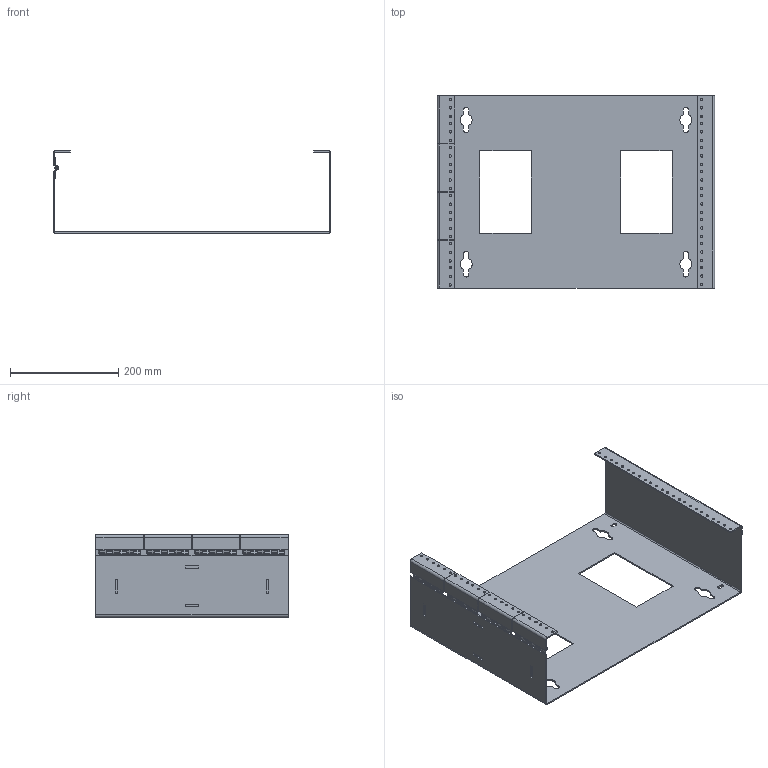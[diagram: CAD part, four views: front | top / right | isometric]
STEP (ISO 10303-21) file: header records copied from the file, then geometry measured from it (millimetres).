
FILE_DESCRIPTION (( 'STEP AP203' ), '1' );
FILE_NAME ('11005.STEP', '2013-07-10T10:37:26', ( '' ), ( '' ), 'SwSTEP 2.0', 'SolidWorks 2010', '' );
FILE_SCHEMA (( 'CONFIG_CONTROL_DESIGN' ));
Length unit declared in the file: millimetre
Products named in the file (6): body_swing_panel_8u; hinge_pin; hinge_assembly; hinge_blade; 11005; bracket_swing_panel
Assembly tree (12 placements, depth 3):
  11005
    hinge_assembly  x4
      hinge_blade
      hinge_pin
    bracket_swing_panel  x4
    body_swing_panel_8u
Bounding box: 512.93 x 355.6 x 152.4 mm (x, y, z)
Volume: 691999.1 mm3; surface area: 590738.4 mm2
Topology: 17 solids, 17 shells, 546 faces, 1428 edges, 920 vertices
Faces by surface type: cylinder 270, plane 268, torus 8
Entity records: 8111 total; most frequent: DIRECTION 1323, CARTESIAN_POINT 1235, ORIENTED_EDGE 1210, EDGE_CURVE 605, AXIS2_PLACEMENT_3D 479, VERTEX_POINT 391, VECTOR 365, LINE 365
